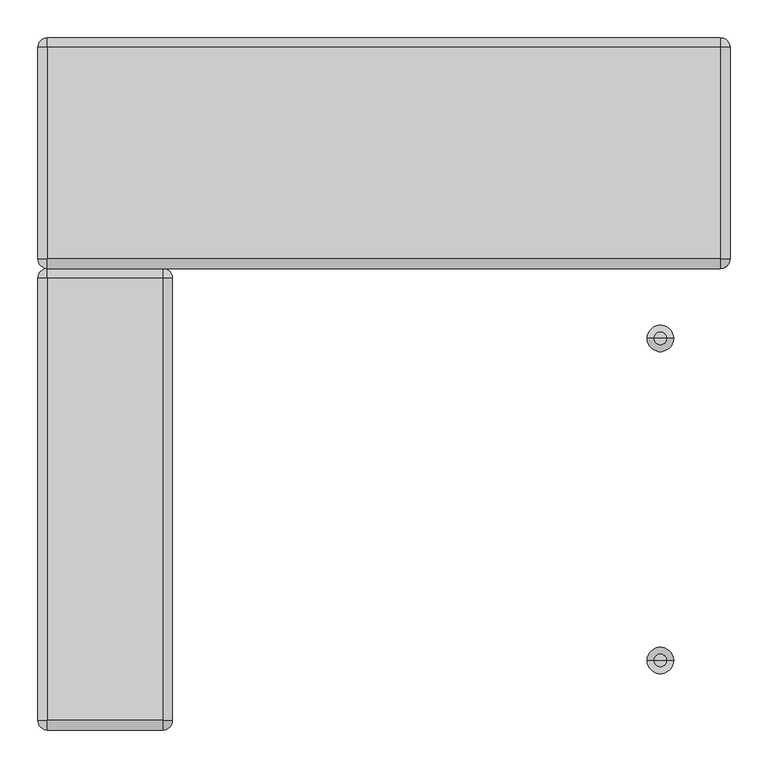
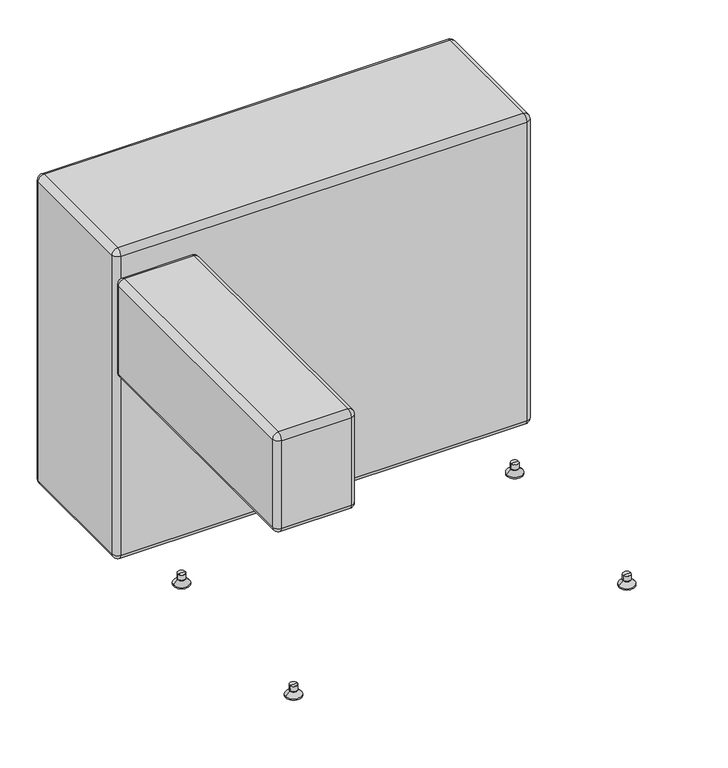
"""IFC4 building model written with IfcOpenShell, lengths in millimetres: furniture geometry, KFI Studios - Conversa : 24”x36” Seat - Right Corner, Small Arm."""

from ifc_helpers import new_model, si_unit, point, frame, origin, place, context, project, spatial, polyline, circle_curve, ellipse_curve, trimmed, source, transform, mapped, element, save
from ifc_brep_helpers import plane_surface, cylinder_surface, revolved_surface, advanced_brep


def furniture_8b4e13db(model_context):
    return source(origin(), model_context, "Body", "AdvancedBrep", [
        advanced_brep(
        [(-457.2, 292.1, 673.1), (-457.2, -292.1, 673.1), (-444.5, -292.1, 685.8), (-444.5, 292.1, 685.8), (-457.2, 292.1, 469.9), (-457.2, -292.1, 469.9), (-444.5, 292.1, 457.2), (-444.5, -292.1, 457.2), (-444.5, -304.8, 673.1), (-292.1, -304.8, 673.1), (-292.1, -292.1, 685.8), (-444.5, -304.8, 469.9), (-292.1, -304.8, 469.9), (-292.1, -292.1, 457.2), (-292.1, 292.1, 685.8), (-292.1, 292.1, 457.2), (-292.1, 304.8, 673.1), (-444.5, 304.8, 673.1), (-292.1, 304.8, 469.9), (-444.5, 304.8, 469.9), (-279.4, -292.1, 673.1), (-279.4, 292.1, 673.1), (-279.4, -292.1, 469.9), (-279.4, 292.1, 469.9)],
        [
            (0, 1),
            (1, 2, circle_curve(frame((-444.5, -292.1, 673.1), z_axis=(0.0, 1.0, 0.0), x_axis=(-1.0, 0.0, 0.0)), 12.7)),
            (2, 3),
            (3, 0, circle_curve(frame((-444.5, 292.1, 673.1), z_axis=(0.0, -1.0, 0.0), x_axis=(-1.0, 0.0, 0.0)), 12.7)),
            (0, 4),
            (4, 5),
            (5, 1),
            (4, 6, circle_curve(frame((-444.5, 292.1, 469.9), z_axis=(0.0, -1.0, 0.0), x_axis=(-1.0, 0.0, 0.0)), 12.7)),
            (6, 7),
            (7, 5, circle_curve(frame((-444.5, -292.1, 469.9), z_axis=(0.0, 1.0, 0.0), x_axis=(-1.0, 0.0, 0.0)), 12.7)),
            (8, 9),
            (9, 10, circle_curve(frame((-292.1, -292.1, 673.1), z_axis=(-1.0, 0.0, 0.0), x_axis=(0.0, 1.0, 0.0)), 12.7)),
            (10, 2),
            (2, 8, circle_curve(frame((-444.5, -292.1, 673.1), z_axis=(1.0, 0.0, 0.0), x_axis=(0.0, 1.0, 0.0)), 12.7)),
            (8, 11),
            (11, 12),
            (12, 9),
            (11, 7, circle_curve(frame((-444.5, -292.1, 469.9), z_axis=(1.0, 0.0, 0.0), x_axis=(0.0, 1.0, 0.0)), 12.7)),
            (7, 13),
            (13, 12, circle_curve(frame((-292.1, -292.1, 469.9), z_axis=(-1.0, 0.0, 0.0), x_axis=(0.0, 1.0, 0.0)), 12.7)),
            (10, 14),
            (14, 3),
            (6, 15),
            (15, 13),
            (16, 17),
            (17, 3, circle_curve(frame((-444.5, 292.1, 673.1), z_axis=(1.0, 0.0, 0.0), x_axis=(0.0, 1.0, 0.0)), 12.7)),
            (14, 16, circle_curve(frame((-292.1, 292.1, 673.1), z_axis=(-1.0, 0.0, 0.0), x_axis=(0.0, 1.0, 0.0)), 12.7)),
            (16, 18),
            (18, 19),
            (19, 17),
            (18, 15, circle_curve(frame((-292.1, 292.1, 469.9), z_axis=(-1.0, 0.0, 0.0), x_axis=(0.0, 1.0, 0.0)), 12.7)),
            (6, 19, circle_curve(frame((-444.5, 292.1, 469.9), z_axis=(1.0, 0.0, 0.0), x_axis=(0.0, 1.0, 0.0)), 12.7)),
            (20, 21),
            (21, 14, circle_curve(frame((-292.1, 292.1, 673.1), z_axis=(0.0, -1.0, 0.0), x_axis=(-1.0, 0.0, 0.0)), 12.7)),
            (10, 20, circle_curve(frame((-292.1, -292.1, 673.1), z_axis=(0.0, 1.0, 0.0), x_axis=(-1.0, 0.0, 0.0)), 12.7)),
            (20, 22),
            (22, 23),
            (23, 21),
            (22, 13, circle_curve(frame((-292.1, -292.1, 469.9), z_axis=(0.0, 1.0, 0.0), x_axis=(-1.0, 0.0, 0.0)), 12.7)),
            (15, 23, circle_curve(frame((-292.1, 292.1, 469.9), z_axis=(0.0, -1.0, 0.0), x_axis=(-1.0, 0.0, 0.0)), 12.7)),
            (19, 4, circle_curve(frame((-444.5, 292.1, 469.9), z_axis=(0.0, 0.0, 1.0), x_axis=(-1.0, 0.0, 0.0)), 12.7)),
            (0, 17, circle_curve(frame((-444.5, 292.1, 673.1), z_axis=(0.0, 0.0, -1.0), x_axis=(-1.0, 0.0, 0.0)), 12.7)),
            (8, 1, circle_curve(frame((-444.5, -292.1, 673.1), z_axis=(0.0, 0.0, -1.0), x_axis=(-1.0, 0.0, 0.0)), 12.7)),
            (5, 11, circle_curve(frame((-444.5, -292.1, 469.9), z_axis=(0.0, 0.0, 1.0), x_axis=(-1.0, 0.0, 0.0)), 12.7)),
            (12, 22, circle_curve(frame((-292.1, -292.1, 469.9), z_axis=(0.0, 0.0, 1.0), x_axis=(1.0, 0.0, 0.0)), 12.7)),
            (20, 9, circle_curve(frame((-292.1, -292.1, 673.1), z_axis=(0.0, 0.0, -1.0), x_axis=(1.0, 0.0, 0.0)), 12.7)),
            (16, 21, circle_curve(frame((-292.1, 292.1, 673.1), z_axis=(0.0, 0.0, -1.0), x_axis=(1.0, 0.0, 0.0)), 12.7)),
            (23, 18, circle_curve(frame((-292.1, 292.1, 469.9), z_axis=(0.0, 0.0, 1.0), x_axis=(1.0, 0.0, 0.0)), 12.7)),
        ],
        [
            cylinder_surface(frame((-444.5, -292.1, 673.1), z_axis=(0.0, -1.0, 0.0), x_axis=(-1.0, 0.0, 0.0)), 12.7),
            plane_surface(frame((-457.2, -292.1, 673.1), z_axis=(-1.0, 0.0, 0.0), x_axis=(0.0, 1.0, 0.0))),
            cylinder_surface(frame((-444.5, -292.1, 469.9), z_axis=(0.0, -1.0, 0.0), x_axis=(-1.0, 0.0, 0.0)), 12.7),
            cylinder_surface(frame((-444.5, -292.1, 673.1), z_axis=(-1.0, 0.0, 0.0), x_axis=(0.0, 1.0, 0.0)), 12.7),
            plane_surface(frame((-444.5, -304.8, 469.9), z_axis=(0.0, -1.0, 0.0), x_axis=(1.0, 0.0, 0.0))),
            cylinder_surface(frame((-444.5, -292.1, 469.9), z_axis=(-1.0, 0.0, 0.0), x_axis=(0.0, 1.0, 0.0)), 12.7),
            plane_surface(frame((-444.5, 292.1, 685.8), z_axis=(0.0, 0.0, 1.0), x_axis=(-1.0, 0.0, 0.0))),
            plane_surface(frame((-444.5, 292.1, 457.2), z_axis=(0.0, 0.0, -1.0), x_axis=(1.0, 0.0, 0.0))),
            cylinder_surface(frame((-444.5, 292.1, 673.1), z_axis=(-1.0, 0.0, 0.0), x_axis=(0.0, 1.0, 0.0)), 12.7),
            plane_surface(frame((-444.5, 304.8, 673.1), z_axis=(0.0, 1.0, 0.0), x_axis=(1.0, 0.0, 0.0))),
            cylinder_surface(frame((-444.5, 292.1, 469.9), z_axis=(-1.0, 0.0, 0.0), x_axis=(0.0, 1.0, 0.0)), 12.7),
            cylinder_surface(frame((-292.1, -292.1, 673.1), z_axis=(0.0, -1.0, 0.0), x_axis=(-1.0, 0.0, 0.0)), 12.7),
            plane_surface(frame((-279.4, -292.1, 469.9), z_axis=(1.0, 0.0, 0.0), x_axis=(0.0, 1.0, 0.0))),
            cylinder_surface(frame((-292.1, -292.1, 469.9), z_axis=(0.0, -1.0, 0.0), x_axis=(-1.0, 0.0, 0.0)), 12.7),
            cylinder_surface(frame((-444.5, 292.1, 685.8), z_axis=(0.0, 0.0, 1.0), x_axis=(-1.0, 0.0, 0.0)), 12.7),
            revolved_surface(trimmed(ellipse_curve(frame((-444.5, 292.1, 469.9), z_axis=(0.0, 1.0, 0.0), x_axis=(0.0, 0.0, 1.0)), 12.7, 12.7), [point((-444.5, 292.1, 457.2))], [point((-457.2, 292.1, 469.9))], True, "CARTESIAN"), (-444.5, 292.1, 685.8), (0.0, 0.0, 1.0)),
            revolved_surface(trimmed(ellipse_curve(frame((-444.5, 292.1, 673.1), z_axis=(0.0, 1.0, 0.0), x_axis=(0.0, 0.0, 1.0)), 12.7, 12.7), [point((-457.2, 292.1, 673.1))], [point((-444.5, 292.1, 685.8))], True, "CARTESIAN"), (-444.5, 292.1, 685.8), (0.0, 0.0, 1.0)),
            cylinder_surface(frame((-444.5, -292.1, 535.5189642), z_axis=(0.0, 0.0, -1.0), x_axis=(-1.0, 0.0, 0.0)), 12.7),
            revolved_surface(trimmed(ellipse_curve(frame((-444.5, -292.1, 673.1), z_axis=(0.0, -1.0, 0.0), x_axis=(1.0, 0.0, 0.0)), 12.7, 12.7), [point((-444.5, -292.1, 685.8))], [point((-457.2, -292.1, 673.1))], True, "CARTESIAN"), (-444.5, -292.1, 535.5189642), (0.0, 0.0, -1.0)),
            revolved_surface(trimmed(ellipse_curve(frame((-444.5, -292.1, 469.9), z_axis=(0.0, -1.0, 0.0), x_axis=(1.0, 0.0, 0.0)), 12.7, 12.7), [point((-457.2, -292.1, 469.9))], [point((-444.5, -292.1, 457.2))], True, "CARTESIAN"), (-444.5, -292.1, 535.5189642), (0.0, 0.0, -1.0)),
            cylinder_surface(frame((-292.1, -292.1, 685.8), z_axis=(0.0, 0.0, 1.0), x_axis=(1.0, 0.0, 0.0)), 12.7),
            revolved_surface(trimmed(ellipse_curve(frame((-292.1, -292.1, 469.9), z_axis=(0.0, -1.0, 0.0), x_axis=(1.0, 0.0, 0.0)), 12.7, 12.7), [point((-292.1, -292.1, 457.2))], [point((-279.4, -292.1, 469.9))], True, "CARTESIAN"), (-292.1, -292.1, 685.8), (0.0, 0.0, 1.0)),
            revolved_surface(trimmed(ellipse_curve(frame((-292.1, -292.1, 673.1), z_axis=(0.0, -1.0, 0.0), x_axis=(1.0, 0.0, 0.0)), 12.7, 12.7), [point((-279.4, -292.1, 673.1))], [point((-292.1, -292.1, 685.8))], True, "CARTESIAN"), (-292.1, -292.1, 685.8), (0.0, 0.0, 1.0)),
            cylinder_surface(frame((-292.1, 292.1, 535.5189642), z_axis=(0.0, 0.0, -1.0), x_axis=(1.0, 0.0, 0.0)), 12.7),
            revolved_surface(trimmed(ellipse_curve(frame((-292.1, 292.1, 673.1), z_axis=(0.0, 1.0, 0.0), x_axis=(0.0, 0.0, 1.0)), 12.7, 12.7), [point((-292.1, 292.1, 685.8))], [point((-279.4, 292.1, 673.1))], True, "CARTESIAN"), (-292.1, 292.1, 535.5189642), (0.0, 0.0, -1.0)),
            revolved_surface(trimmed(ellipse_curve(frame((-292.1, 292.1, 469.9), z_axis=(0.0, 1.0, 0.0), x_axis=(0.0, 0.0, 1.0)), 12.7, 12.7), [point((-279.4, 292.1, 469.9))], [point((-292.1, 292.1, 457.2))], True, "CARTESIAN"), (-292.1, 292.1, 535.5189642), (0.0, 0.0, -1.0)),
        ],
        [
            (0, [[1, 2, 3, 4]]),
            (1, [[-1, 5, 6, 7]]),
            (2, [[-6, 8, 9, 10]]),
            (3, [[11, 12, 13, 14]]),
            (4, [[-11, 15, 16, 17]]),
            (5, [[-16, 18, 19, 20]]),
            (6, [[-3, -13, 21, 22]]),
            (7, [[-9, 23, 24, -19]]),
            (8, [[25, 26, -22, 27]]),
            (9, [[-25, 28, 29, 30]]),
            (10, [[-29, 31, -23, 32]]),
            (11, [[33, 34, -21, 35]]),
            (12, [[-33, 36, 37, 38]]),
            (13, [[-37, 39, -24, 40]]),
            (14, [[41, -5, 42, -30]]),
            (15, [[-41, -32, -8]]),
            (16, [[-42, -4, -26]]),
            (17, [[43, -7, 44, -15]]),
            (18, [[-43, -14, -2]]),
            (19, [[-44, -10, -18]]),
            (20, [[45, -36, 46, -17]]),
            (21, [[-45, -20, -39]]),
            (22, [[-46, -35, -12]]),
            (23, [[47, -38, 48, -28]]),
            (24, [[-47, -27, -34]]),
            (25, [[-48, -40, -31]]),
        ],
    ),
        advanced_brep(
        [(373.3895895, 517.525, 25.4), (365.125, 517.525, 25.4), (356.8604105, 517.525, 25.4), (373.3895895, 517.525, 14.2843611), (356.8604105, 517.525, 14.2843611), (371.7876354, 517.525, 14.2843611), (358.4623646, 517.525, 14.2843611), (371.7876354, 517.525, 12.7064551), (358.4623646, 517.525, 12.7064551), (373.3890671, 517.525, 12.7064551), (356.8609329, 517.525, 12.7064551), (382.5741215, 517.525, 3.1950529), (347.6758785, 517.525, 3.1950529), (382.5741215, 517.525, 0.0), (347.6758785, 517.525, 0.0), (365.125, 517.525, 0.0)],
        [
            (0, 1),
            (1, 2),
            (2, 0, circle_curve(frame((365.125, 517.525, 25.4), z_axis=(0.0, 0.0, 1.0), x_axis=(-1.0, 0.0, 0.0)), 8.2645895)),
            (0, 2, circle_curve(frame((365.125, 517.525, 25.4), z_axis=(0.0, 0.0, 1.0), x_axis=(-1.0, 0.0, 0.0)), 8.2645895)),
            (3, 0),
            (2, 4),
            (4, 3, circle_curve(frame((365.125, 517.525, 14.2843611), z_axis=(0.0, 0.0, 1.0), x_axis=(-1.0, 0.0, 0.0)), 8.2645895)),
            (3, 4, circle_curve(frame((365.125, 517.525, 14.2843611), z_axis=(0.0, 0.0, 1.0), x_axis=(-1.0, 0.0, 0.0)), 8.2645895)),
            (5, 3),
            (4, 6),
            (6, 5, circle_curve(frame((365.125, 517.525, 14.2843611), z_axis=(0.0, 0.0, 1.0), x_axis=(-1.0, 0.0, 0.0)), 6.6626354)),
            (5, 6, circle_curve(frame((365.125, 517.525, 14.2843611), z_axis=(0.0, 0.0, 1.0), x_axis=(-1.0, 0.0, 0.0)), 6.6626354)),
            (7, 5),
            (6, 8),
            (8, 7, circle_curve(frame((365.125, 517.525, 12.7064551), z_axis=(0.0, 0.0, 1.0), x_axis=(-1.0, 0.0, 0.0)), 6.6626354)),
            (7, 8, circle_curve(frame((365.125, 517.525, 12.7064551), z_axis=(0.0, 0.0, 1.0), x_axis=(-1.0, 0.0, 0.0)), 6.6626354)),
            (9, 7),
            (8, 10),
            (10, 9, circle_curve(frame((365.125, 517.525, 12.7064551), z_axis=(0.0, 0.0, 1.0), x_axis=(-1.0, 0.0, 0.0)), 8.2640671)),
            (9, 10, circle_curve(frame((365.125, 517.525, 12.7064551), z_axis=(0.0, 0.0, 1.0), x_axis=(-1.0, 0.0, 0.0)), 8.2640671)),
            (11, 9),
            (10, 12),
            (12, 11, circle_curve(frame((365.125, 517.525, 3.1950529), z_axis=(0.0, 0.0, 1.0), x_axis=(-1.0, 0.0, 0.0)), 17.4491215)),
            (11, 12, circle_curve(frame((365.125, 517.525, 3.1950529), z_axis=(0.0, 0.0, 1.0), x_axis=(-1.0, 0.0, 0.0)), 17.4491215)),
            (13, 11),
            (12, 14),
            (14, 13, circle_curve(frame((365.125, 517.525, 0.0), z_axis=(0.0, 0.0, 1.0), x_axis=(-1.0, 0.0, 0.0)), 17.4491215)),
            (13, 14, circle_curve(frame((365.125, 517.525, 0.0), z_axis=(0.0, 0.0, 1.0), x_axis=(-1.0, 0.0, 0.0)), 17.4491215)),
            (15, 13),
            (14, 15),
        ],
        [
            plane_surface(frame((365.125, 517.525, 25.4), z_axis=(0.0, 0.0, 1.0), x_axis=(-1.0, 0.0, 0.0))),
            cylinder_surface(frame((365.125, 517.525, 33.820929), z_axis=(0.0, 0.0, -1.0), x_axis=(-1.0, 0.0, 0.0)), 8.2645895),
            plane_surface(frame((365.125, 517.525, 14.2843611), z_axis=(0.0, 0.0, -1.0), x_axis=(-1.0, 0.0, 0.0))),
            cylinder_surface(frame((365.125, 517.525, 33.820929), z_axis=(0.0, 0.0, -1.0), x_axis=(-1.0, 0.0, 0.0)), 6.6626354),
            plane_surface(frame((365.125, 517.525, 12.7064551), z_axis=(0.0, 0.0, 1.0), x_axis=(-1.0, 0.0, 0.0))),
            revolved_surface(polyline([(356.8609329, 517.525, 12.7064551), (347.6758785, 517.525, 3.1950529)]), (365.125, 517.525, 33.820929), (0.0, 0.0, -1.0)),
            cylinder_surface(frame((365.125, 517.525, 33.820929), z_axis=(0.0, 0.0, -1.0), x_axis=(-1.0, 0.0, 0.0)), 17.4491215),
            plane_surface(frame((365.125, 517.525, 0.0), z_axis=(0.0, 0.0, -1.0), x_axis=(-1.0, 0.0, 0.0))),
        ],
        [
            (0, [[1, 2, 3]]),
            (0, [[-2, -1, 4]]),
            (1, [[5, -3, 6, 7]]),
            (1, [[-6, -4, -5, 8]]),
            (2, [[9, -7, 10, 11]]),
            (2, [[-10, -8, -9, 12]]),
            (3, [[13, -11, 14, 15]]),
            (3, [[-14, -12, -13, 16]]),
            (4, [[17, -15, 18, 19]]),
            (4, [[-18, -16, -17, 20]]),
            (5, [[21, -19, 22, 23]]),
            (5, [[-22, -20, -21, 24]]),
            (6, [[25, -23, 26, 27]]),
            (6, [[-26, -24, -25, 28]]),
            (7, [[29, -27, 30]]),
            (7, [[-30, -28, -29]]),
        ],
    ),
        advanced_brep(
        [(-356.8604105, 517.525, 25.4), (-365.125, 517.525, 25.4), (-373.3895895, 517.525, 25.4), (-356.8604105, 517.525, 14.2843611), (-373.3895895, 517.525, 14.2843611), (-358.4623646, 517.525, 14.2843611), (-371.7876354, 517.525, 14.2843611), (-358.4623646, 517.525, 12.7064551), (-371.7876354, 517.525, 12.7064551), (-356.8609329, 517.525, 12.7064551), (-373.3890671, 517.525, 12.7064551), (-347.6758785, 517.525, 3.1950529), (-382.5741215, 517.525, 3.1950529), (-347.6758785, 517.525, 0.0), (-382.5741215, 517.525, 0.0), (-365.125, 517.525, 0.0)],
        [
            (0, 1),
            (1, 2),
            (2, 0, circle_curve(frame((-365.125, 517.525, 25.4), z_axis=(0.0, 0.0, 1.0), x_axis=(-1.0, 0.0, 0.0)), 8.2645895)),
            (0, 2, circle_curve(frame((-365.125, 517.525, 25.4), z_axis=(0.0, 0.0, 1.0), x_axis=(-1.0, 0.0, 0.0)), 8.2645895)),
            (3, 0),
            (2, 4),
            (4, 3, circle_curve(frame((-365.125, 517.525, 14.2843611), z_axis=(0.0, 0.0, 1.0), x_axis=(-1.0, 0.0, 0.0)), 8.2645895)),
            (3, 4, circle_curve(frame((-365.125, 517.525, 14.2843611), z_axis=(0.0, 0.0, 1.0), x_axis=(-1.0, 0.0, 0.0)), 8.2645895)),
            (5, 3),
            (4, 6),
            (6, 5, circle_curve(frame((-365.125, 517.525, 14.2843611), z_axis=(0.0, 0.0, 1.0), x_axis=(-1.0, 0.0, 0.0)), 6.6626354)),
            (5, 6, circle_curve(frame((-365.125, 517.525, 14.2843611), z_axis=(0.0, 0.0, 1.0), x_axis=(-1.0, 0.0, 0.0)), 6.6626354)),
            (7, 5),
            (6, 8),
            (8, 7, circle_curve(frame((-365.125, 517.525, 12.7064551), z_axis=(0.0, 0.0, 1.0), x_axis=(-1.0, 0.0, 0.0)), 6.6626354)),
            (7, 8, circle_curve(frame((-365.125, 517.525, 12.7064551), z_axis=(0.0, 0.0, 1.0), x_axis=(-1.0, 0.0, 0.0)), 6.6626354)),
            (9, 7),
            (8, 10),
            (10, 9, circle_curve(frame((-365.125, 517.525, 12.7064551), z_axis=(0.0, 0.0, 1.0), x_axis=(-1.0, 0.0, 0.0)), 8.2640671)),
            (9, 10, circle_curve(frame((-365.125, 517.525, 12.7064551), z_axis=(0.0, 0.0, 1.0), x_axis=(-1.0, 0.0, 0.0)), 8.2640671)),
            (11, 9),
            (10, 12),
            (12, 11, circle_curve(frame((-365.125, 517.525, 3.1950529), z_axis=(0.0, 0.0, 1.0), x_axis=(-1.0, 0.0, 0.0)), 17.4491215)),
            (11, 12, circle_curve(frame((-365.125, 517.525, 3.1950529), z_axis=(0.0, 0.0, 1.0), x_axis=(-1.0, 0.0, 0.0)), 17.4491215)),
            (13, 11),
            (12, 14),
            (14, 13, circle_curve(frame((-365.125, 517.525, 0.0), z_axis=(0.0, 0.0, 1.0), x_axis=(-1.0, 0.0, 0.0)), 17.4491215)),
            (13, 14, circle_curve(frame((-365.125, 517.525, 0.0), z_axis=(0.0, 0.0, 1.0), x_axis=(-1.0, 0.0, 0.0)), 17.4491215)),
            (15, 13),
            (14, 15),
        ],
        [
            plane_surface(frame((-365.125, 517.525, 25.4), z_axis=(0.0, 0.0, 1.0), x_axis=(-1.0, 0.0, 0.0))),
            cylinder_surface(frame((-365.125, 517.525, 33.820929), z_axis=(0.0, 0.0, -1.0), x_axis=(-1.0, 0.0, 0.0)), 8.2645895),
            plane_surface(frame((-365.125, 517.525, 14.2843611), z_axis=(0.0, 0.0, -1.0), x_axis=(-1.0, 0.0, 0.0))),
            cylinder_surface(frame((-365.125, 517.525, 33.820929), z_axis=(0.0, 0.0, -1.0), x_axis=(-1.0, 0.0, 0.0)), 6.6626354),
            plane_surface(frame((-365.125, 517.525, 12.7064551), z_axis=(0.0, 0.0, 1.0), x_axis=(-1.0, 0.0, 0.0))),
            revolved_surface(polyline([(-373.3890671, 517.525, 12.7064551), (-382.5741215, 517.525, 3.1950529)]), (-365.125, 517.525, 33.820929), (0.0, 0.0, -1.0)),
            cylinder_surface(frame((-365.125, 517.525, 33.820929), z_axis=(0.0, 0.0, -1.0), x_axis=(-1.0, 0.0, 0.0)), 17.4491215),
            plane_surface(frame((-365.125, 517.525, 0.0), z_axis=(0.0, 0.0, -1.0), x_axis=(-1.0, 0.0, 0.0))),
        ],
        [
            (0, [[1, 2, 3]]),
            (0, [[-2, -1, 4]]),
            (1, [[5, -3, 6, 7]]),
            (1, [[-6, -4, -5, 8]]),
            (2, [[9, -7, 10, 11]]),
            (2, [[-10, -8, -9, 12]]),
            (3, [[13, -11, 14, 15]]),
            (3, [[-14, -12, -13, 16]]),
            (4, [[17, -15, 18, 19]]),
            (4, [[-18, -16, -17, 20]]),
            (5, [[21, -19, 22, 23]]),
            (5, [[-22, -20, -21, 24]]),
            (6, [[25, -23, 26, 27]]),
            (6, [[-26, -24, -25, 28]]),
            (7, [[29, -27, 30]]),
            (7, [[-30, -28, -29]]),
        ],
    ),
        advanced_brep(
        [(-457.2, 596.9, 730.25), (-457.2, 317.5, 730.25), (-444.5, 317.5, 742.95), (-444.5, 596.9, 742.95), (-457.2, 596.9, 38.1), (-457.2, 317.5, 38.1), (-444.5, 596.9, 25.4), (-444.5, 317.5, 25.4), (-444.5, 304.8, 730.25), (444.5, 304.8, 730.25), (444.5, 317.5, 742.95), (-444.5, 304.8, 38.1), (444.5, 304.8, 38.1), (444.5, 317.5, 25.4), (444.5, 596.9, 742.95), (444.5, 596.9, 25.4), (444.5, 609.6, 730.25), (-444.5, 609.6, 730.25), (444.5, 609.6, 38.1), (-444.5, 609.6, 38.1), (457.2, 317.5, 730.25), (457.2, 596.9, 730.25), (457.2, 317.5, 38.1), (457.2, 596.9, 38.1)],
        [
            (0, 1),
            (1, 2, circle_curve(frame((-444.5, 317.5, 730.25), z_axis=(0.0, 1.0, 0.0), x_axis=(-1.0, 0.0, 0.0)), 12.7)),
            (2, 3),
            (3, 0, circle_curve(frame((-444.5, 596.9, 730.25), z_axis=(0.0, -1.0, 0.0), x_axis=(-1.0, 0.0, 0.0)), 12.7)),
            (0, 4),
            (4, 5),
            (5, 1),
            (4, 6, circle_curve(frame((-444.5, 596.9, 38.1), z_axis=(0.0, -1.0, 0.0), x_axis=(-1.0, 0.0, 0.0)), 12.7)),
            (6, 7),
            (7, 5, circle_curve(frame((-444.5, 317.5, 38.1), z_axis=(0.0, 1.0, 0.0), x_axis=(-1.0, 0.0, 0.0)), 12.7)),
            (8, 9),
            (9, 10, circle_curve(frame((444.5, 317.5, 730.25), z_axis=(-1.0, 0.0, 0.0), x_axis=(0.0, 1.0, 0.0)), 12.7)),
            (10, 2),
            (2, 8, circle_curve(frame((-444.5, 317.5, 730.25), z_axis=(1.0, 0.0, 0.0), x_axis=(0.0, 1.0, 0.0)), 12.7)),
            (8, 11),
            (11, 12),
            (12, 9),
            (11, 7, circle_curve(frame((-444.5, 317.5, 38.1), z_axis=(1.0, 0.0, 0.0), x_axis=(0.0, 1.0, 0.0)), 12.7)),
            (7, 13),
            (13, 12, circle_curve(frame((444.5, 317.5, 38.1), z_axis=(-1.0, 0.0, 0.0), x_axis=(0.0, 1.0, 0.0)), 12.7)),
            (10, 14),
            (14, 3),
            (6, 15),
            (15, 13),
            (16, 17),
            (17, 3, circle_curve(frame((-444.5, 596.9, 730.25), z_axis=(1.0, 0.0, 0.0), x_axis=(0.0, 1.0, 0.0)), 12.7)),
            (14, 16, circle_curve(frame((444.5, 596.9, 730.25), z_axis=(-1.0, 0.0, 0.0), x_axis=(0.0, 1.0, 0.0)), 12.7)),
            (16, 18),
            (18, 19),
            (19, 17),
            (18, 15, circle_curve(frame((444.5, 596.9, 38.1), z_axis=(-1.0, 0.0, 0.0), x_axis=(0.0, 1.0, 0.0)), 12.7)),
            (6, 19, circle_curve(frame((-444.5, 596.9, 38.1), z_axis=(1.0, 0.0, 0.0), x_axis=(0.0, 1.0, 0.0)), 12.7)),
            (20, 21),
            (21, 14, circle_curve(frame((444.5, 596.9, 730.25), z_axis=(0.0, -1.0, 0.0), x_axis=(-1.0, 0.0, 0.0)), 12.7)),
            (10, 20, circle_curve(frame((444.5, 317.5, 730.25), z_axis=(0.0, 1.0, 0.0), x_axis=(-1.0, 0.0, 0.0)), 12.7)),
            (20, 22),
            (22, 23),
            (23, 21),
            (22, 13, circle_curve(frame((444.5, 317.5, 38.1), z_axis=(0.0, 1.0, 0.0), x_axis=(-1.0, 0.0, 0.0)), 12.7)),
            (15, 23, circle_curve(frame((444.5, 596.9, 38.1), z_axis=(0.0, -1.0, 0.0), x_axis=(-1.0, 0.0, 0.0)), 12.7)),
            (19, 4, circle_curve(frame((-444.5, 596.9, 38.1), z_axis=(0.0, 0.0, 1.0), x_axis=(-1.0, 0.0, 0.0)), 12.7)),
            (0, 17, circle_curve(frame((-444.5, 596.9, 730.25), z_axis=(0.0, 0.0, -1.0), x_axis=(-1.0, 0.0, 0.0)), 12.7)),
            (8, 1, circle_curve(frame((-444.5, 317.5, 730.25), z_axis=(0.0, 0.0, -1.0), x_axis=(-1.0, 0.0, 0.0)), 12.7)),
            (5, 11, circle_curve(frame((-444.5, 317.5, 38.1), z_axis=(0.0, 0.0, 1.0), x_axis=(-1.0, 0.0, 0.0)), 12.7)),
            (12, 22, circle_curve(frame((444.5, 317.5, 38.1), z_axis=(0.0, 0.0, 1.0), x_axis=(1.0, 0.0, 0.0)), 12.7)),
            (20, 9, circle_curve(frame((444.5, 317.5, 730.25), z_axis=(0.0, 0.0, -1.0), x_axis=(1.0, 0.0, 0.0)), 12.7)),
            (16, 21, circle_curve(frame((444.5, 596.9, 730.25), z_axis=(0.0, 0.0, -1.0), x_axis=(1.0, 0.0, 0.0)), 12.7)),
            (23, 18, circle_curve(frame((444.5, 596.9, 38.1), z_axis=(0.0, 0.0, 1.0), x_axis=(1.0, 0.0, 0.0)), 12.7)),
        ],
        [
            cylinder_surface(frame((-444.5, 317.5, 730.25), z_axis=(0.0, -1.0, 0.0), x_axis=(-1.0, 0.0, 0.0)), 12.7),
            plane_surface(frame((-457.2, 317.5, 730.25), z_axis=(-1.0, 0.0, 0.0), x_axis=(0.0, 1.0, 0.0))),
            cylinder_surface(frame((-444.5, 317.5, 38.1), z_axis=(0.0, -1.0, 0.0), x_axis=(-1.0, 0.0, 0.0)), 12.7),
            cylinder_surface(frame((-444.5, 317.5, 730.25), z_axis=(-1.0, 0.0, 0.0), x_axis=(0.0, 1.0, 0.0)), 12.7),
            plane_surface(frame((-444.5, 304.8, 38.1), z_axis=(0.0, -1.0, 0.0), x_axis=(1.0, 0.0, 0.0))),
            cylinder_surface(frame((-444.5, 317.5, 38.1), z_axis=(-1.0, 0.0, 0.0), x_axis=(0.0, 1.0, 0.0)), 12.7),
            plane_surface(frame((-444.5, 596.9, 742.95), z_axis=(0.0, 0.0, 1.0), x_axis=(-1.0, 0.0, 0.0))),
            plane_surface(frame((-444.5, 596.9, 25.4), z_axis=(0.0, 0.0, -1.0), x_axis=(1.0, 0.0, 0.0))),
            cylinder_surface(frame((-444.5, 596.9, 730.25), z_axis=(-1.0, 0.0, 0.0), x_axis=(0.0, 1.0, 0.0)), 12.7),
            plane_surface(frame((-444.5, 609.6, 730.25), z_axis=(0.0, 1.0, 0.0), x_axis=(1.0, 0.0, 0.0))),
            cylinder_surface(frame((-444.5, 596.9, 38.1), z_axis=(-1.0, 0.0, 0.0), x_axis=(0.0, 1.0, 0.0)), 12.7),
            cylinder_surface(frame((444.5, 317.5, 730.25), z_axis=(0.0, -1.0, 0.0), x_axis=(-1.0, 0.0, 0.0)), 12.7),
            plane_surface(frame((457.2, 317.5, 38.1), z_axis=(1.0, 0.0, 0.0), x_axis=(0.0, 1.0, 0.0))),
            cylinder_surface(frame((444.5, 317.5, 38.1), z_axis=(0.0, -1.0, 0.0), x_axis=(-1.0, 0.0, 0.0)), 12.7),
            cylinder_surface(frame((-444.5, 596.9, 742.95), z_axis=(0.0, 0.0, 1.0), x_axis=(-1.0, 0.0, 0.0)), 12.7),
            revolved_surface(trimmed(ellipse_curve(frame((-444.5, 596.9, 38.1), z_axis=(0.0, 1.0, 0.0), x_axis=(0.0, 0.0, 1.0)), 12.7, 12.7), [point((-444.5, 596.9, 25.4))], [point((-457.2, 596.9, 38.1))], True, "CARTESIAN"), (-444.5, 596.9, 742.95), (0.0, 0.0, 1.0)),
            revolved_surface(trimmed(ellipse_curve(frame((-444.5, 596.9, 730.25), z_axis=(0.0, 1.0, 0.0), x_axis=(0.0, 0.0, 1.0)), 12.7, 12.7), [point((-457.2, 596.9, 730.25))], [point((-444.5, 596.9, 742.95))], True, "CARTESIAN"), (-444.5, 596.9, 742.95), (0.0, 0.0, 1.0)),
            cylinder_surface(frame((-444.5, 317.5, 592.6689642), z_axis=(0.0, 0.0, -1.0), x_axis=(-1.0, 0.0, 0.0)), 12.7),
            revolved_surface(trimmed(ellipse_curve(frame((-444.5, 317.5, 730.25), z_axis=(0.0, -1.0, 0.0), x_axis=(1.0, 0.0, 0.0)), 12.7, 12.7), [point((-444.5, 317.5, 742.95))], [point((-457.2, 317.5, 730.25))], True, "CARTESIAN"), (-444.5, 317.5, 592.6689642), (0.0, 0.0, -1.0)),
            revolved_surface(trimmed(ellipse_curve(frame((-444.5, 317.5, 38.1), z_axis=(0.0, -1.0, 0.0), x_axis=(1.0, 0.0, 0.0)), 12.7, 12.7), [point((-457.2, 317.5, 38.1))], [point((-444.5, 317.5, 25.4))], True, "CARTESIAN"), (-444.5, 317.5, 592.6689642), (0.0, 0.0, -1.0)),
            cylinder_surface(frame((444.5, 317.5, 742.95), z_axis=(0.0, 0.0, 1.0), x_axis=(1.0, 0.0, 0.0)), 12.7),
            revolved_surface(trimmed(ellipse_curve(frame((444.5, 317.5, 38.1), z_axis=(0.0, -1.0, 0.0), x_axis=(1.0, 0.0, 0.0)), 12.7, 12.7), [point((444.5, 317.5, 25.4))], [point((457.2, 317.5, 38.1))], True, "CARTESIAN"), (444.5, 317.5, 742.95), (0.0, 0.0, 1.0)),
            revolved_surface(trimmed(ellipse_curve(frame((444.5, 317.5, 730.25), z_axis=(0.0, -1.0, 0.0), x_axis=(1.0, 0.0, 0.0)), 12.7, 12.7), [point((457.2, 317.5, 730.25))], [point((444.5, 317.5, 742.95))], True, "CARTESIAN"), (444.5, 317.5, 742.95), (0.0, 0.0, 1.0)),
            cylinder_surface(frame((444.5, 596.9, 592.6689642), z_axis=(0.0, 0.0, -1.0), x_axis=(1.0, 0.0, 0.0)), 12.7),
            revolved_surface(trimmed(ellipse_curve(frame((444.5, 596.9, 730.25), z_axis=(0.0, 1.0, 0.0), x_axis=(0.0, 0.0, 1.0)), 12.7, 12.7), [point((444.5, 596.9, 742.95))], [point((457.2, 596.9, 730.25))], True, "CARTESIAN"), (444.5, 596.9, 592.6689642), (0.0, 0.0, -1.0)),
            revolved_surface(trimmed(ellipse_curve(frame((444.5, 596.9, 38.1), z_axis=(0.0, 1.0, 0.0), x_axis=(0.0, 0.0, 1.0)), 12.7, 12.7), [point((457.2, 596.9, 38.1))], [point((444.5, 596.9, 25.4))], True, "CARTESIAN"), (444.5, 596.9, 592.6689642), (0.0, 0.0, -1.0)),
        ],
        [
            (0, [[1, 2, 3, 4]]),
            (1, [[-1, 5, 6, 7]]),
            (2, [[-6, 8, 9, 10]]),
            (3, [[11, 12, 13, 14]]),
            (4, [[-11, 15, 16, 17]]),
            (5, [[-16, 18, 19, 20]]),
            (6, [[-3, -13, 21, 22]]),
            (7, [[-9, 23, 24, -19]]),
            (8, [[25, 26, -22, 27]]),
            (9, [[-25, 28, 29, 30]]),
            (10, [[-29, 31, -23, 32]]),
            (11, [[33, 34, -21, 35]]),
            (12, [[-33, 36, 37, 38]]),
            (13, [[-37, 39, -24, 40]]),
            (14, [[41, -5, 42, -30]]),
            (15, [[-41, -32, -8]]),
            (16, [[-42, -4, -26]]),
            (17, [[43, -7, 44, -15]]),
            (18, [[-43, -14, -2]]),
            (19, [[-44, -10, -18]]),
            (20, [[45, -36, 46, -17]]),
            (21, [[-45, -20, -39]]),
            (22, [[-46, -35, -12]]),
            (23, [[47, -38, 48, -28]]),
            (24, [[-47, -27, -34]]),
            (25, [[-48, -40, -31]]),
        ],
    ),
        advanced_brep(
        [(373.3895895, 212.725, 25.4), (365.125, 212.725, 25.4), (356.8604105, 212.725, 25.4), (373.3895895, 212.725, 14.2843611), (356.8604105, 212.725, 14.2843611), (371.7876354, 212.725, 14.2843611), (358.4623646, 212.725, 14.2843611), (371.7876354, 212.725, 12.7064551), (358.4623646, 212.725, 12.7064551), (373.3890671, 212.725, 12.7064551), (356.8609329, 212.725, 12.7064551), (382.5741215, 212.725, 3.1950529), (347.6758785, 212.725, 3.1950529), (382.5741215, 212.725, 0.0), (347.6758785, 212.725, 0.0), (365.125, 212.725, 0.0)],
        [
            (0, 1),
            (1, 2),
            (2, 0, circle_curve(frame((365.125, 212.725, 25.4), z_axis=(0.0, 0.0, 1.0), x_axis=(-1.0, 0.0, 0.0)), 8.2645895)),
            (0, 2, circle_curve(frame((365.125, 212.725, 25.4), z_axis=(0.0, 0.0, 1.0), x_axis=(-1.0, 0.0, 0.0)), 8.2645895)),
            (3, 0),
            (2, 4),
            (4, 3, circle_curve(frame((365.125, 212.725, 14.2843611), z_axis=(0.0, 0.0, 1.0), x_axis=(-1.0, 0.0, 0.0)), 8.2645895)),
            (3, 4, circle_curve(frame((365.125, 212.725, 14.2843611), z_axis=(0.0, 0.0, 1.0), x_axis=(-1.0, 0.0, 0.0)), 8.2645895)),
            (5, 3),
            (4, 6),
            (6, 5, circle_curve(frame((365.125, 212.725, 14.2843611), z_axis=(0.0, 0.0, 1.0), x_axis=(-1.0, 0.0, 0.0)), 6.6626354)),
            (5, 6, circle_curve(frame((365.125, 212.725, 14.2843611), z_axis=(0.0, 0.0, 1.0), x_axis=(-1.0, 0.0, 0.0)), 6.6626354)),
            (7, 5),
            (6, 8),
            (8, 7, circle_curve(frame((365.125, 212.725, 12.7064551), z_axis=(0.0, 0.0, 1.0), x_axis=(-1.0, 0.0, 0.0)), 6.6626354)),
            (7, 8, circle_curve(frame((365.125, 212.725, 12.7064551), z_axis=(0.0, 0.0, 1.0), x_axis=(-1.0, 0.0, 0.0)), 6.6626354)),
            (9, 7),
            (8, 10),
            (10, 9, circle_curve(frame((365.125, 212.725, 12.7064551), z_axis=(0.0, 0.0, 1.0), x_axis=(-1.0, 0.0, 0.0)), 8.2640671)),
            (9, 10, circle_curve(frame((365.125, 212.725, 12.7064551), z_axis=(0.0, 0.0, 1.0), x_axis=(-1.0, 0.0, 0.0)), 8.2640671)),
            (11, 9),
            (10, 12),
            (12, 11, circle_curve(frame((365.125, 212.725, 3.1950529), z_axis=(0.0, 0.0, 1.0), x_axis=(-1.0, 0.0, 0.0)), 17.4491215)),
            (11, 12, circle_curve(frame((365.125, 212.725, 3.1950529), z_axis=(0.0, 0.0, 1.0), x_axis=(-1.0, 0.0, 0.0)), 17.4491215)),
            (13, 11),
            (12, 14),
            (14, 13, circle_curve(frame((365.125, 212.725, 0.0), z_axis=(0.0, 0.0, 1.0), x_axis=(-1.0, 0.0, 0.0)), 17.4491215)),
            (13, 14, circle_curve(frame((365.125, 212.725, 0.0), z_axis=(0.0, 0.0, 1.0), x_axis=(-1.0, 0.0, 0.0)), 17.4491215)),
            (15, 13),
            (14, 15),
        ],
        [
            plane_surface(frame((365.125, 212.725, 25.4), z_axis=(0.0, 0.0, 1.0), x_axis=(-1.0, 0.0, 0.0))),
            cylinder_surface(frame((365.125, 212.725, 33.820929), z_axis=(0.0, 0.0, -1.0), x_axis=(-1.0, 0.0, 0.0)), 8.2645895),
            plane_surface(frame((365.125, 212.725, 14.2843611), z_axis=(0.0, 0.0, -1.0), x_axis=(-1.0, 0.0, 0.0))),
            cylinder_surface(frame((365.125, 212.725, 33.820929), z_axis=(0.0, 0.0, -1.0), x_axis=(-1.0, 0.0, 0.0)), 6.6626354),
            plane_surface(frame((365.125, 212.725, 12.7064551), z_axis=(0.0, 0.0, 1.0), x_axis=(-1.0, 0.0, 0.0))),
            revolved_surface(polyline([(356.8609329, 212.725, 12.7064551), (347.6758785, 212.725, 3.1950529)]), (365.125, 212.725, 33.820929), (0.0, 0.0, -1.0)),
            cylinder_surface(frame((365.125, 212.725, 33.820929), z_axis=(0.0, 0.0, -1.0), x_axis=(-1.0, 0.0, 0.0)), 17.4491215),
            plane_surface(frame((365.125, 212.725, 0.0), z_axis=(0.0, 0.0, -1.0), x_axis=(-1.0, 0.0, 0.0))),
        ],
        [
            (0, [[1, 2, 3]]),
            (0, [[-2, -1, 4]]),
            (1, [[5, -3, 6, 7]]),
            (1, [[-6, -4, -5, 8]]),
            (2, [[9, -7, 10, 11]]),
            (2, [[-10, -8, -9, 12]]),
            (3, [[13, -11, 14, 15]]),
            (3, [[-14, -12, -13, 16]]),
            (4, [[17, -15, 18, 19]]),
            (4, [[-18, -16, -17, 20]]),
            (5, [[21, -19, 22, 23]]),
            (5, [[-22, -20, -21, 24]]),
            (6, [[25, -23, 26, 27]]),
            (6, [[-26, -24, -25, 28]]),
            (7, [[29, -27, 30]]),
            (7, [[-30, -28, -29]]),
        ],
    ),
        advanced_brep(
        [(-356.8604105, 212.725, 25.4), (-365.125, 212.725, 25.4), (-373.3895895, 212.725, 25.4), (-356.8604105, 212.725, 14.2843611), (-373.3895895, 212.725, 14.2843611), (-358.4623646, 212.725, 14.2843611), (-371.7876354, 212.725, 14.2843611), (-358.4623646, 212.725, 12.7064551), (-371.7876354, 212.725, 12.7064551), (-356.8609329, 212.725, 12.7064551), (-373.3890671, 212.725, 12.7064551), (-347.6758785, 212.725, 3.1950529), (-382.5741215, 212.725, 3.1950529), (-347.6758785, 212.725, 0.0), (-382.5741215, 212.725, 0.0), (-365.125, 212.725, 0.0)],
        [
            (0, 1),
            (1, 2),
            (2, 0, circle_curve(frame((-365.125, 212.725, 25.4), z_axis=(0.0, 0.0, 1.0), x_axis=(-1.0, 0.0, 0.0)), 8.2645895)),
            (0, 2, circle_curve(frame((-365.125, 212.725, 25.4), z_axis=(0.0, 0.0, 1.0), x_axis=(-1.0, 0.0, 0.0)), 8.2645895)),
            (3, 0),
            (2, 4),
            (4, 3, circle_curve(frame((-365.125, 212.725, 14.2843611), z_axis=(0.0, 0.0, 1.0), x_axis=(-1.0, 0.0, 0.0)), 8.2645895)),
            (3, 4, circle_curve(frame((-365.125, 212.725, 14.2843611), z_axis=(0.0, 0.0, 1.0), x_axis=(-1.0, 0.0, 0.0)), 8.2645895)),
            (5, 3),
            (4, 6),
            (6, 5, circle_curve(frame((-365.125, 212.725, 14.2843611), z_axis=(0.0, 0.0, 1.0), x_axis=(-1.0, 0.0, 0.0)), 6.6626354)),
            (5, 6, circle_curve(frame((-365.125, 212.725, 14.2843611), z_axis=(0.0, 0.0, 1.0), x_axis=(-1.0, 0.0, 0.0)), 6.6626354)),
            (7, 5),
            (6, 8),
            (8, 7, circle_curve(frame((-365.125, 212.725, 12.7064551), z_axis=(0.0, 0.0, 1.0), x_axis=(-1.0, 0.0, 0.0)), 6.6626354)),
            (7, 8, circle_curve(frame((-365.125, 212.725, 12.7064551), z_axis=(0.0, 0.0, 1.0), x_axis=(-1.0, 0.0, 0.0)), 6.6626354)),
            (9, 7),
            (8, 10),
            (10, 9, circle_curve(frame((-365.125, 212.725, 12.7064551), z_axis=(0.0, 0.0, 1.0), x_axis=(-1.0, 0.0, 0.0)), 8.2640671)),
            (9, 10, circle_curve(frame((-365.125, 212.725, 12.7064551), z_axis=(0.0, 0.0, 1.0), x_axis=(-1.0, 0.0, 0.0)), 8.2640671)),
            (11, 9),
            (10, 12),
            (12, 11, circle_curve(frame((-365.125, 212.725, 3.1950529), z_axis=(0.0, 0.0, 1.0), x_axis=(-1.0, 0.0, 0.0)), 17.4491215)),
            (11, 12, circle_curve(frame((-365.125, 212.725, 3.1950529), z_axis=(0.0, 0.0, 1.0), x_axis=(-1.0, 0.0, 0.0)), 17.4491215)),
            (13, 11),
            (12, 14),
            (14, 13, circle_curve(frame((-365.125, 212.725, 0.0), z_axis=(0.0, 0.0, 1.0), x_axis=(-1.0, 0.0, 0.0)), 17.4491215)),
            (13, 14, circle_curve(frame((-365.125, 212.725, 0.0), z_axis=(0.0, 0.0, 1.0), x_axis=(-1.0, 0.0, 0.0)), 17.4491215)),
            (15, 13),
            (14, 15),
        ],
        [
            plane_surface(frame((-365.125, 212.725, 25.4), z_axis=(0.0, 0.0, 1.0), x_axis=(-1.0, 0.0, 0.0))),
            cylinder_surface(frame((-365.125, 212.725, 33.820929), z_axis=(0.0, 0.0, -1.0), x_axis=(-1.0, 0.0, 0.0)), 8.2645895),
            plane_surface(frame((-365.125, 212.725, 14.2843611), z_axis=(0.0, 0.0, -1.0), x_axis=(-1.0, 0.0, 0.0))),
            cylinder_surface(frame((-365.125, 212.725, 33.820929), z_axis=(0.0, 0.0, -1.0), x_axis=(-1.0, 0.0, 0.0)), 6.6626354),
            plane_surface(frame((-365.125, 212.725, 12.7064551), z_axis=(0.0, 0.0, 1.0), x_axis=(-1.0, 0.0, 0.0))),
            revolved_surface(polyline([(-373.3890671, 212.725, 12.7064551), (-382.5741215, 212.725, 3.1950529)]), (-365.125, 212.725, 33.820929), (0.0, 0.0, -1.0)),
            cylinder_surface(frame((-365.125, 212.725, 33.820929), z_axis=(0.0, 0.0, -1.0), x_axis=(-1.0, 0.0, 0.0)), 17.4491215),
            plane_surface(frame((-365.125, 212.725, 0.0), z_axis=(0.0, 0.0, -1.0), x_axis=(-1.0, 0.0, 0.0))),
        ],
        [
            (0, [[1, 2, 3]]),
            (0, [[-2, -1, 4]]),
            (1, [[5, -3, 6, 7]]),
            (1, [[-6, -4, -5, 8]]),
            (2, [[9, -7, 10, 11]]),
            (2, [[-10, -8, -9, 12]]),
            (3, [[13, -11, 14, 15]]),
            (3, [[-14, -12, -13, 16]]),
            (4, [[17, -15, 18, 19]]),
            (4, [[-18, -16, -17, 20]]),
            (5, [[21, -19, 22, 23]]),
            (5, [[-22, -20, -21, 24]]),
            (6, [[25, -23, 26, 27]]),
            (6, [[-26, -24, -25, 28]]),
            (7, [[29, -27, 30]]),
            (7, [[-30, -28, -29]]),
        ],
    ),
        advanced_brep(
        [(373.3895895, -212.725, 25.4), (356.8604105, -212.725, 25.4), (365.125, -212.725, 25.4), (373.3895895, -212.725, 14.2843611), (356.8604105, -212.725, 14.2843611), (371.7876354, -212.725, 14.2843611), (358.4623646, -212.725, 14.2843611), (371.7876354, -212.725, 12.7064551), (358.4623646, -212.725, 12.7064551), (373.3890671, -212.725, 12.7064551), (356.8609329, -212.725, 12.7064551), (382.5741215, -212.725, 3.1950529), (347.6758785, -212.725, 3.1950529), (382.5741215, -212.725, 0.0), (347.6758785, -212.725, 0.0), (365.125, -212.725, 0.0)],
        [
            (0, 1, circle_curve(frame((365.125, -212.725, 25.4), z_axis=(0.0, 0.0, 1.0), x_axis=(-1.0, 0.0, 0.0)), 8.2645895)),
            (1, 2),
            (2, 0),
            (1, 0, circle_curve(frame((365.125, -212.725, 25.4), z_axis=(0.0, 0.0, 1.0), x_axis=(-1.0, 0.0, 0.0)), 8.2645895)),
            (3, 4, circle_curve(frame((365.125, -212.725, 14.2843611), z_axis=(0.0, 0.0, 1.0), x_axis=(-1.0, 0.0, 0.0)), 8.2645895)),
            (4, 1),
            (0, 3),
            (4, 3, circle_curve(frame((365.125, -212.725, 14.2843611), z_axis=(0.0, 0.0, 1.0), x_axis=(-1.0, 0.0, 0.0)), 8.2645895)),
            (5, 6, circle_curve(frame((365.125, -212.725, 14.2843611), z_axis=(0.0, 0.0, 1.0), x_axis=(-1.0, 0.0, 0.0)), 6.6626354)),
            (6, 4),
            (3, 5),
            (6, 5, circle_curve(frame((365.125, -212.725, 14.2843611), z_axis=(0.0, 0.0, 1.0), x_axis=(-1.0, 0.0, 0.0)), 6.6626354)),
            (7, 8, circle_curve(frame((365.125, -212.725, 12.7064551), z_axis=(0.0, 0.0, 1.0), x_axis=(-1.0, 0.0, 0.0)), 6.6626354)),
            (8, 6),
            (5, 7),
            (8, 7, circle_curve(frame((365.125, -212.725, 12.7064551), z_axis=(0.0, 0.0, 1.0), x_axis=(-1.0, 0.0, 0.0)), 6.6626354)),
            (9, 10, circle_curve(frame((365.125, -212.725, 12.7064551), z_axis=(0.0, 0.0, 1.0), x_axis=(-1.0, 0.0, 0.0)), 8.2640671)),
            (10, 8),
            (7, 9),
            (10, 9, circle_curve(frame((365.125, -212.725, 12.7064551), z_axis=(0.0, 0.0, 1.0), x_axis=(-1.0, 0.0, 0.0)), 8.2640671)),
            (11, 12, circle_curve(frame((365.125, -212.725, 3.1950529), z_axis=(0.0, 0.0, 1.0), x_axis=(-1.0, 0.0, 0.0)), 17.4491215)),
            (12, 10),
            (9, 11),
            (12, 11, circle_curve(frame((365.125, -212.725, 3.1950529), z_axis=(0.0, 0.0, 1.0), x_axis=(-1.0, 0.0, 0.0)), 17.4491215)),
            (13, 14, circle_curve(frame((365.125, -212.725, 0.0), z_axis=(0.0, 0.0, 1.0), x_axis=(-1.0, 0.0, 0.0)), 17.4491215)),
            (14, 12),
            (11, 13),
            (14, 13, circle_curve(frame((365.125, -212.725, 0.0), z_axis=(0.0, 0.0, 1.0), x_axis=(-1.0, 0.0, 0.0)), 17.4491215)),
            (15, 14),
            (13, 15),
        ],
        [
            plane_surface(frame((365.125, -212.725, 25.4), z_axis=(0.0, 0.0, 1.0), x_axis=(-1.0, 0.0, 0.0))),
            cylinder_surface(frame((365.125, -212.725, 33.820929), z_axis=(0.0, 0.0, -1.0), x_axis=(-1.0, 0.0, 0.0)), 8.2645895),
            plane_surface(frame((365.125, -212.725, 14.2843611), z_axis=(0.0, 0.0, -1.0), x_axis=(-1.0, 0.0, 0.0))),
            cylinder_surface(frame((365.125, -212.725, 33.820929), z_axis=(0.0, 0.0, -1.0), x_axis=(-1.0, 0.0, 0.0)), 6.6626354),
            plane_surface(frame((365.125, -212.725, 12.7064551), z_axis=(0.0, 0.0, 1.0), x_axis=(-1.0, 0.0, 0.0))),
            revolved_surface(polyline([(356.8609329, -212.725, 12.7064551), (347.6758785, -212.725, 3.1950529)]), (365.125, -212.725, 33.820929), (0.0, 0.0, -1.0)),
            cylinder_surface(frame((365.125, -212.725, 33.820929), z_axis=(0.0, 0.0, -1.0), x_axis=(-1.0, 0.0, 0.0)), 17.4491215),
            plane_surface(frame((365.125, -212.725, 0.0), z_axis=(0.0, 0.0, -1.0), x_axis=(-1.0, 0.0, 0.0))),
        ],
        [
            (0, [[1, 2, 3]]),
            (0, [[4, -3, -2]]),
            (1, [[5, 6, -1, 7]]),
            (1, [[8, -7, -4, -6]]),
            (2, [[9, 10, -5, 11]]),
            (2, [[12, -11, -8, -10]]),
            (3, [[13, 14, -9, 15]]),
            (3, [[16, -15, -12, -14]]),
            (4, [[17, 18, -13, 19]]),
            (4, [[20, -19, -16, -18]]),
            (5, [[21, 22, -17, 23]]),
            (5, [[24, -23, -20, -22]]),
            (6, [[25, 26, -21, 27]]),
            (6, [[28, -27, -24, -26]]),
            (7, [[29, -25, 30]]),
            (7, [[-30, -28, -29]]),
        ],
    ),
        advanced_brep(
        [(-356.8604105, -212.725, 25.4), (-373.3895895, -212.725, 25.4), (-365.125, -212.725, 25.4), (-356.8604105, -212.725, 14.2843611), (-373.3895895, -212.725, 14.2843611), (-358.4623646, -212.725, 14.2843611), (-371.7876354, -212.725, 14.2843611), (-358.4623646, -212.725, 12.7064551), (-371.7876354, -212.725, 12.7064551), (-356.8609329, -212.725, 12.7064551), (-373.3890671, -212.725, 12.7064551), (-347.6758785, -212.725, 3.1950529), (-382.5741215, -212.725, 3.1950529), (-347.6758785, -212.725, 0.0), (-382.5741215, -212.725, 0.0), (-365.125, -212.725, 0.0)],
        [
            (0, 1, circle_curve(frame((-365.125, -212.725, 25.4), z_axis=(0.0, 0.0, 1.0), x_axis=(-1.0, 0.0, 0.0)), 8.2645895)),
            (1, 2),
            (2, 0),
            (1, 0, circle_curve(frame((-365.125, -212.725, 25.4), z_axis=(0.0, 0.0, 1.0), x_axis=(-1.0, 0.0, 0.0)), 8.2645895)),
            (3, 4, circle_curve(frame((-365.125, -212.725, 14.2843611), z_axis=(0.0, 0.0, 1.0), x_axis=(-1.0, 0.0, 0.0)), 8.2645895)),
            (4, 1),
            (0, 3),
            (4, 3, circle_curve(frame((-365.125, -212.725, 14.2843611), z_axis=(0.0, 0.0, 1.0), x_axis=(-1.0, 0.0, 0.0)), 8.2645895)),
            (5, 6, circle_curve(frame((-365.125, -212.725, 14.2843611), z_axis=(0.0, 0.0, 1.0), x_axis=(-1.0, 0.0, 0.0)), 6.6626354)),
            (6, 4),
            (3, 5),
            (6, 5, circle_curve(frame((-365.125, -212.725, 14.2843611), z_axis=(0.0, 0.0, 1.0), x_axis=(-1.0, 0.0, 0.0)), 6.6626354)),
            (7, 8, circle_curve(frame((-365.125, -212.725, 12.7064551), z_axis=(0.0, 0.0, 1.0), x_axis=(-1.0, 0.0, 0.0)), 6.6626354)),
            (8, 6),
            (5, 7),
            (8, 7, circle_curve(frame((-365.125, -212.725, 12.7064551), z_axis=(0.0, 0.0, 1.0), x_axis=(-1.0, 0.0, 0.0)), 6.6626354)),
            (9, 10, circle_curve(frame((-365.125, -212.725, 12.7064551), z_axis=(0.0, 0.0, 1.0), x_axis=(-1.0, 0.0, 0.0)), 8.2640671)),
            (10, 8),
            (7, 9),
            (10, 9, circle_curve(frame((-365.125, -212.725, 12.7064551), z_axis=(0.0, 0.0, 1.0), x_axis=(-1.0, 0.0, 0.0)), 8.2640671)),
            (11, 12, circle_curve(frame((-365.125, -212.725, 3.1950529), z_axis=(0.0, 0.0, 1.0), x_axis=(-1.0, 0.0, 0.0)), 17.4491215)),
            (12, 10),
            (9, 11),
            (12, 11, circle_curve(frame((-365.125, -212.725, 3.1950529), z_axis=(0.0, 0.0, 1.0), x_axis=(-1.0, 0.0, 0.0)), 17.4491215)),
            (13, 14, circle_curve(frame((-365.125, -212.725, 0.0), z_axis=(0.0, 0.0, 1.0), x_axis=(-1.0, 0.0, 0.0)), 17.4491215)),
            (14, 12),
            (11, 13),
            (14, 13, circle_curve(frame((-365.125, -212.725, 0.0), z_axis=(0.0, 0.0, 1.0), x_axis=(-1.0, 0.0, 0.0)), 17.4491215)),
            (15, 14),
            (13, 15),
        ],
        [
            plane_surface(frame((-365.125, -212.725, 25.4), z_axis=(0.0, 0.0, 1.0), x_axis=(-1.0, 0.0, 0.0))),
            cylinder_surface(frame((-365.125, -212.725, 33.820929), z_axis=(0.0, 0.0, -1.0), x_axis=(-1.0, 0.0, 0.0)), 8.2645895),
            plane_surface(frame((-365.125, -212.725, 14.2843611), z_axis=(0.0, 0.0, -1.0), x_axis=(-1.0, 0.0, 0.0))),
            cylinder_surface(frame((-365.125, -212.725, 33.820929), z_axis=(0.0, 0.0, -1.0), x_axis=(-1.0, 0.0, 0.0)), 6.6626354),
            plane_surface(frame((-365.125, -212.725, 12.7064551), z_axis=(0.0, 0.0, 1.0), x_axis=(-1.0, 0.0, 0.0))),
            revolved_surface(polyline([(-373.3890671, -212.725, 12.7064551), (-382.5741215, -212.725, 3.1950529)]), (-365.125, -212.725, 33.820929), (0.0, 0.0, -1.0)),
            cylinder_surface(frame((-365.125, -212.725, 33.820929), z_axis=(0.0, 0.0, -1.0), x_axis=(-1.0, 0.0, 0.0)), 17.4491215),
            plane_surface(frame((-365.125, -212.725, 0.0), z_axis=(0.0, 0.0, -1.0), x_axis=(-1.0, 0.0, 0.0))),
        ],
        [
            (0, [[1, 2, 3]]),
            (0, [[4, -3, -2]]),
            (1, [[5, 6, -1, 7]]),
            (1, [[8, -7, -4, -6]]),
            (2, [[9, 10, -5, 11]]),
            (2, [[12, -11, -8, -10]]),
            (3, [[13, 14, -9, 15]]),
            (3, [[16, -15, -12, -14]]),
            (4, [[17, 18, -13, 19]]),
            (4, [[20, -19, -16, -18]]),
            (5, [[21, 22, -17, 23]]),
            (5, [[24, -23, -20, -22]]),
            (6, [[25, 26, -21, 27]]),
            (6, [[28, -27, -24, -26]]),
            (7, [[29, -25, 30]]),
            (7, [[-30, -28, -29]]),
        ],
    ),
    ])


if __name__ == "__main__":
    model = new_model("IFC4")
    model_context = context("Model", 3, world=origin())
    ifc_project = project(units=[si_unit("LENGTHUNIT", "METRE", prefix="MILLI")], contexts=[model_context])
    site = spatial("IfcSite", under=ifc_project)
    building = spatial("IfcBuilding", under=site)
    placement = place(None, origin())
    furniture_shape = furniture_8b4e13db(model_context)
    element("IfcFurniture", 1, ObjectType="KFI Studios - Conversa : 24”x36” Seat - Right Corner, Small Arm", at=placement, inside=building, context=model_context, shape_type="MappedRepresentation", body=[
        mapped(furniture_shape, transform((0.0, 0.0, 0.0), x_axis=(1.0, 0.0, 0.0), y_axis=(0.0, 1.0, 0.0), z_axis=(0.0, 0.0, 1.0))),
    ])
    save(model, "model.ifc")
